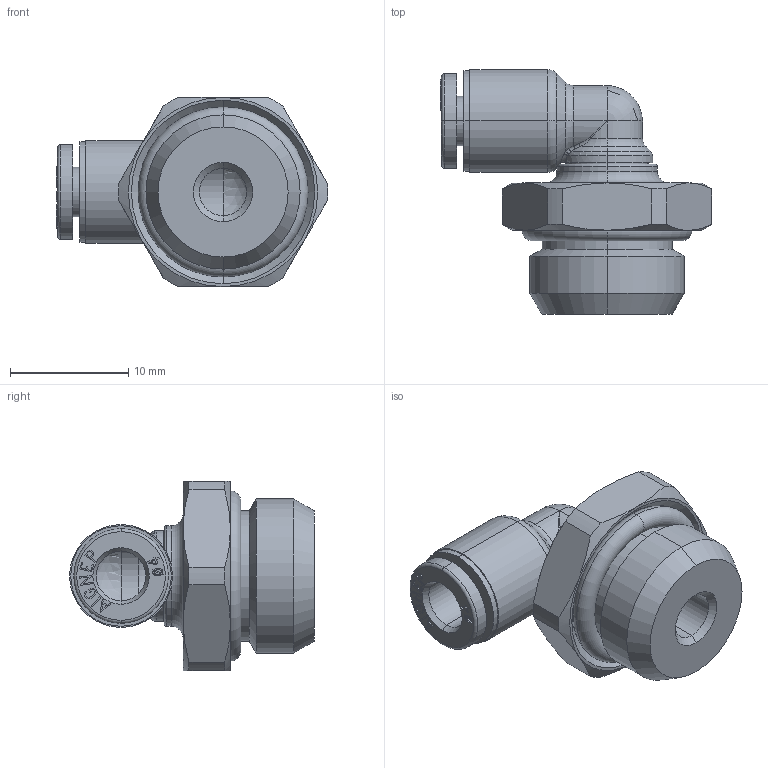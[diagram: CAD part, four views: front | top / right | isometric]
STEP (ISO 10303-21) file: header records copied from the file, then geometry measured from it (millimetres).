
FILE_DESCRIPTION (( 'STEP AP214' ), '1' );
FILE_NAME ('5611500007A.STEP', '2016-05-11T14:52:15', ( '' ), ( '' ), 'SwSTEP 2.0', 'SolidWorks 2016', '' );
FILE_SCHEMA (( 'AUTOMOTIVE_DESIGN' ));
Length unit declared in the file: millimetre
Products named in the file (1): 5611500007A
Bounding box: 22.95 x 20.7 x 16 mm (x, y, z)
Surface area: 1857.2 mm2 (no closed solid volume)
Topology: 0 solids, 8 shells, 263 faces, 803 edges, 522 vertices
Faces by surface type: plane 132, bspline 45, cylinder 33, cone 27, torus 25, sphere 1
Entity records: 12710 total; most frequent: CARTESIAN_POINT 3153, ORIENTED_EDGE 1388, DIRECTION 1209, EDGE_CURVE 799, VERTEX_POINT 522, VECTOR 465, LINE 465, AXIS2_PLACEMENT_3D 372
